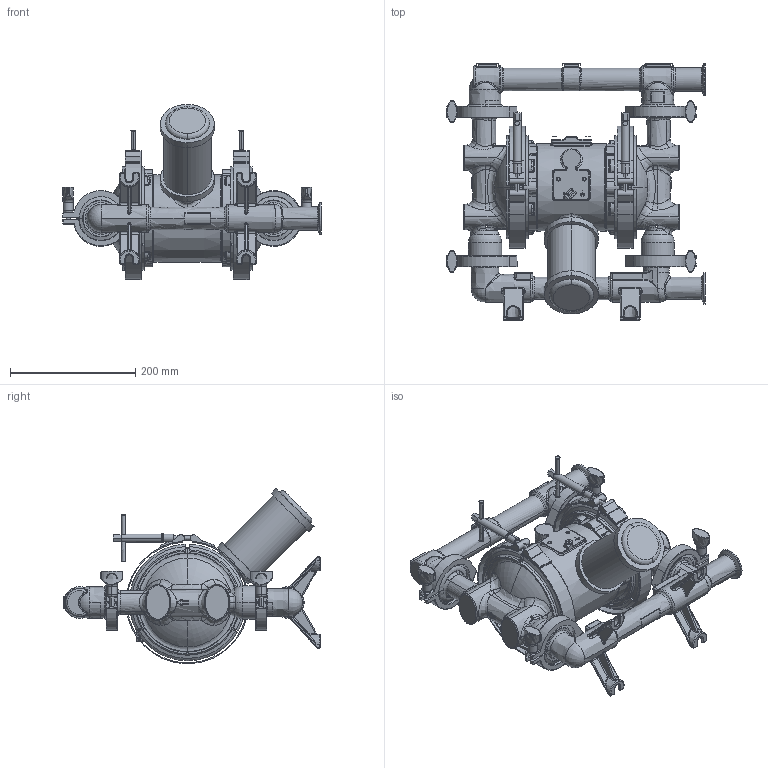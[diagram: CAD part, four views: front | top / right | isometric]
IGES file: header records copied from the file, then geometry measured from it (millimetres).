
Start section:  PTC IGES file: fd1111-en-zak.igs
Global section: file name: fd1111-en-zak.igs; native system: Creo Parametric by PTC Inc.; preprocessor: 2021072; author: qtmwp1; organization: Unknown; date: 20220214.144428; units: inch
Bounding box: 413.12 x 409.22 x 279.53 mm (x, y, z)
Surface area: 859636.5 mm2 (no closed solid volume)
Topology: 0 solids, 0 shells, 1941 faces, 9494 edges, 9493 vertices
Faces by surface type: revolution 1156, bspline 785
